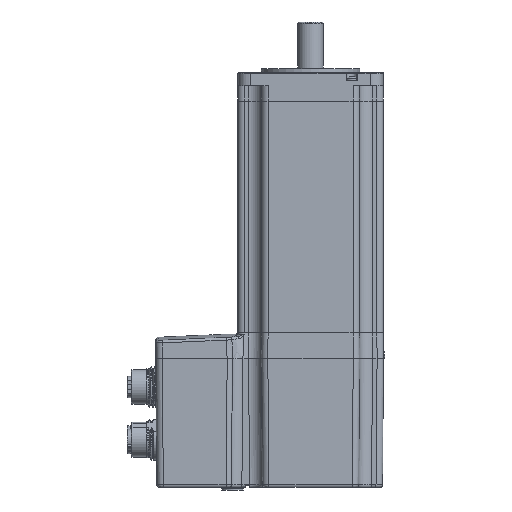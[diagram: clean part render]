
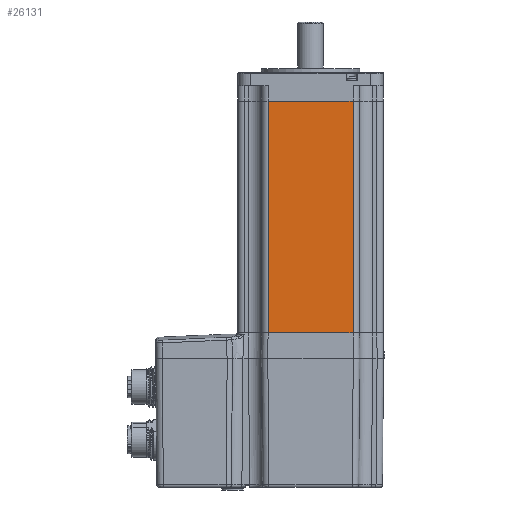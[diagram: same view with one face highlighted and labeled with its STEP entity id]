
A CAD part, front view. The second image highlights one B-rep face of the part: STEP entity #26131.
In plain terms, the highlighted planar face has unit normal (0, -1, 0).
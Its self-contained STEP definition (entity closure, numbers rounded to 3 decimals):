
#3485 = VECTOR ( 'NONE', #20056, 1000. ) ;
#3648 = LINE ( 'NONE', #14979, #3485 ) ;
#4108 = ORIENTED_EDGE ( 'NONE', *, *, #29375, .T. ) ;
#4641 = LINE ( 'NONE', #44090, #5566 ) ;
#5566 = VECTOR ( 'NONE', #59554, 1000. ) ;
#5700 = LINE ( 'NONE', #17896, #5889 ) ;
#5889 = VECTOR ( 'NONE', #53760, 1000. ) ;
#8536 = CARTESIAN_POINT ( 'NONE',  ( 11.5, -56.2, 111.762 ) ) ;
#9891 = DIRECTION ( 'NONE',  ( 1., 0., 0. ) ) ;
#10592 = AXIS2_PLACEMENT_3D ( 'NONE', #8536, #13960, #49572 ) ;
#12621 = ORIENTED_EDGE ( 'NONE', *, *, #40417, .T. ) ;
#13203 = ORIENTED_EDGE ( 'NONE', *, *, #40516, .T. ) ;
#13960 = DIRECTION ( 'NONE',  ( 0., 1., 0. ) ) ;
#14979 = CARTESIAN_POINT ( 'NONE',  ( 11.5, -56.2, 111.762 ) ) ;
#17744 = VECTOR ( 'NONE', #9891, 1000. ) ;
#17880 = LINE ( 'NONE', #45550, #17744 ) ;
#17896 = CARTESIAN_POINT ( 'NONE',  ( 44.5, -56.2, 111.762 ) ) ;
#20056 = DIRECTION ( 'NONE',  ( 0., 0., -1. ) ) ;
#26131 = ADVANCED_FACE ( 'NONE', ( #51851 ), #39277, .F. ) ;
#26333 = CARTESIAN_POINT ( 'NONE',  ( 11.5, -56.2, 0. ) ) ;
#28924 = ORIENTED_EDGE ( 'NONE', *, *, #40330, .F. ) ;
#29375 = EDGE_CURVE ( 'NONE', #31719, #55869, #17880, .T. ) ;
#31719 = VERTEX_POINT ( 'NONE', #26333 ) ;
#39277 = PLANE ( 'NONE',  #10592 ) ;
#40330 = EDGE_CURVE ( 'NONE', #48540, #55869, #5700, .T. ) ;
#40417 = EDGE_CURVE ( 'NONE', #48540, #54566, #4641, .T. ) ;
#40516 = EDGE_CURVE ( 'NONE', #54566, #31719, #3648, .T. ) ;
#42758 = CARTESIAN_POINT ( 'NONE',  ( 44.5, -56.2, 90. ) ) ;
#44090 = CARTESIAN_POINT ( 'NONE',  ( 44.5, -56.2, 90. ) ) ;
#45550 = CARTESIAN_POINT ( 'NONE',  ( 11.5, -56.2, 0. ) ) ;
#48540 = VERTEX_POINT ( 'NONE', #42758 ) ;
#49572 = DIRECTION ( 'NONE',  ( 0., 0., 1. ) ) ;
#51851 = FACE_OUTER_BOUND ( 'NONE', #55259, .T. ) ;
#52462 = CARTESIAN_POINT ( 'NONE',  ( 44.5, -56.2, 0. ) ) ;
#53760 = DIRECTION ( 'NONE',  ( 0., 0., -1. ) ) ;
#54566 = VERTEX_POINT ( 'NONE', #57764 ) ;
#55259 = EDGE_LOOP ( 'NONE', ( #28924, #12621, #13203, #4108 ) ) ;
#55869 = VERTEX_POINT ( 'NONE', #52462 ) ;
#57764 = CARTESIAN_POINT ( 'NONE',  ( 11.5, -56.2, 90. ) ) ;
#59554 = DIRECTION ( 'NONE',  ( -1., 0., 0. ) ) ;
